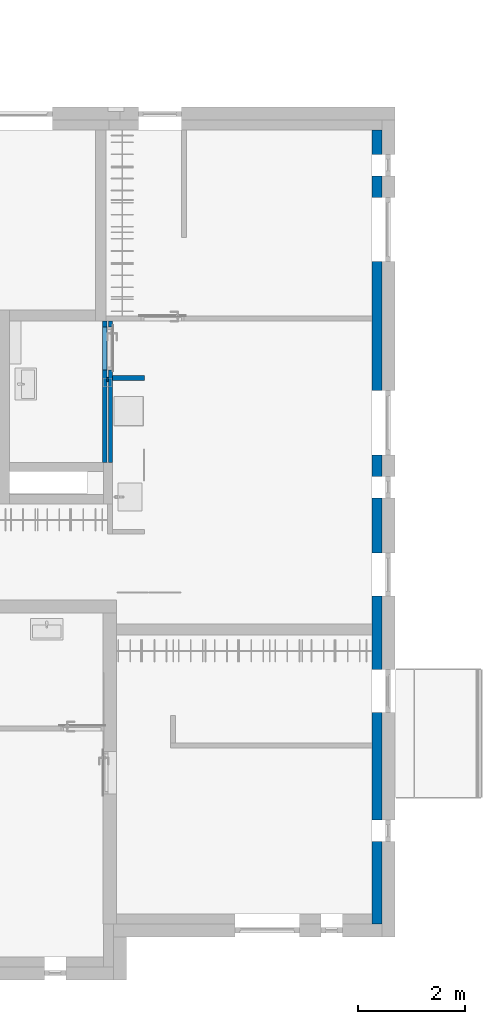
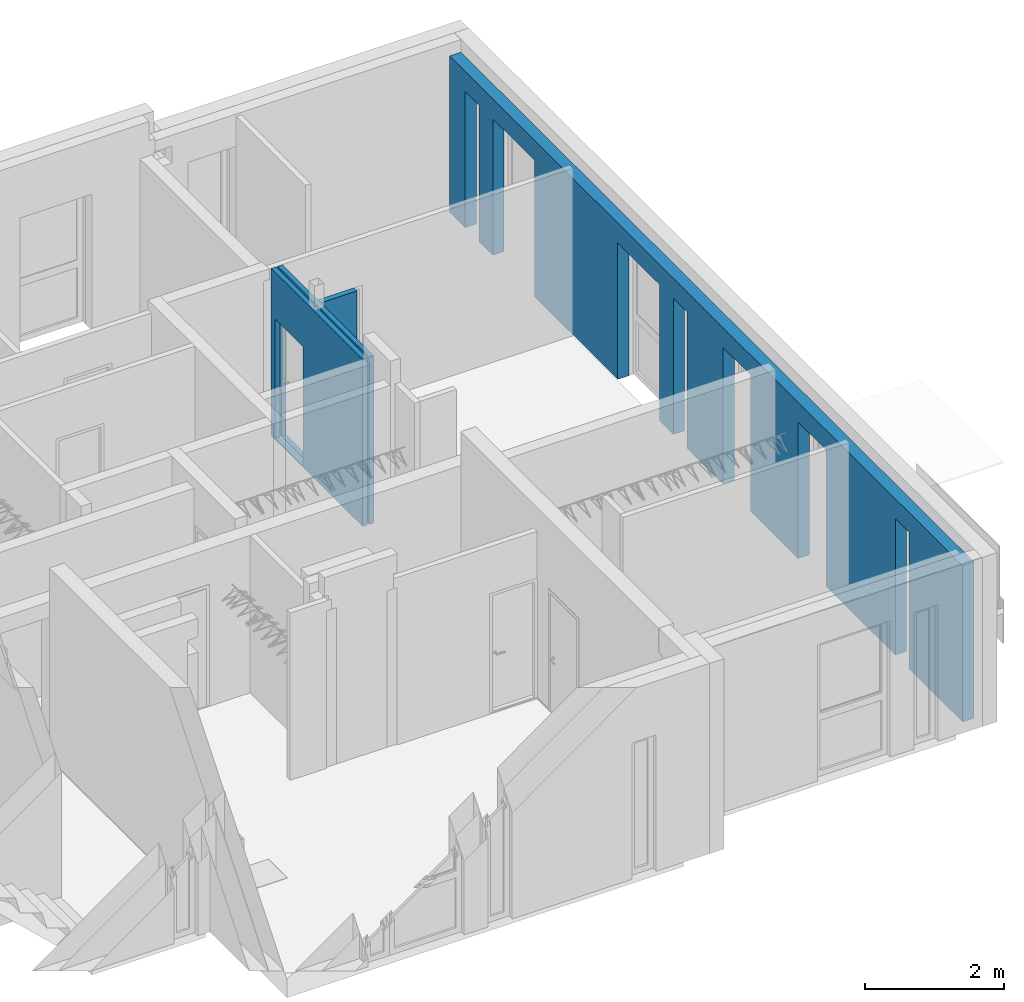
# One storey, part 5 of 42: 5 walls, 9 openings.
"""IFC2X3 building model written with IfcOpenShell, lengths in millimetres."""

from ifc_helpers import new_model, entity, si_unit, converted_unit, direction, frame, frame_2d, origin, place, context, subcontext, project, spatial, polyline, rectangle, extrude, clip, bounded_halfspace, faceted_brep, material, layer, layer_set, layer_usage, type_object, element, save


model = new_model("IFC2X3")

# Units and contexts
model_context = context("Model", 3, precision=0.01, world=origin(), true_north=direction((6.123233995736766e-17, 1.0)))
plan_context = context("Plan", 3, precision=0.01, world=origin(), true_north=direction((6.123233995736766e-17, 1.0)))
body_context = subcontext(model_context, "Body", "Model", "MODEL_VIEW")
ifc_project = project(units=[si_unit("LENGTHUNIT", "METRE", prefix="MILLI"), converted_unit("PLANEANGLEUNIT", "DEGREE", entity("IfcPlaneAngleMeasure", 0.017453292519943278), si_unit("PLANEANGLEUNIT", "RADIAN"), dimensions=[0, 0, 0, 0, 0, 0, 0]), si_unit("AREAUNIT", "SQUARE_METRE")], contexts=[model_context, plan_context])

# Site, building, storey
site_placement = place(None, origin())
site = spatial("IfcSite", under=ifc_project, at=site_placement, Name="Default", CompositionType="ELEMENT")
building_placement = place(site_placement, origin())
building = spatial("IfcBuilding", under=site, at=building_placement, CompositionType="ELEMENT")
storey_placement = place(building_placement, frame((0.0, 0.0, 9465.000076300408)))
storey = spatial("IfcBuildingStorey", under=building, at=storey_placement, Name="4K", CompositionType="ELEMENT", Elevation=9465.000076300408)

# Wall, openings
ifc_material_1 = material(Name="_K. Väisviimistlus. Krohv. Valge")
ifc_layer_1 = layer(ifc_material_1, 5.0)
ifc_material_2 = material(Name="_K. Müüritis. Väikeplokk. Betoon-õõnesplokk")
ifc_layer_2 = layer(ifc_material_2, 190.00000000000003)
ifc_layer_3 = layer(ifc_material_1, 5.0)
ifc_layer_set_1 = layer_set([ifc_layer_1, ifc_layer_2, ifc_layer_3], Name="Basic Wall:SS-01. 190")
ifc_layer_usage_1 = layer_usage(ifc_layer_set_1, "AXIS2", "NEGATIVE", 100.00000000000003)
wall_type_1 = type_object("IfcWallType", Name="Basic Wall:SS-01. 190", PredefinedType="STANDARD", material=ifc_layer_set_1)
wall_1_placement = place(storey_placement, frame((17000.0, 15400.0, 0.0), z_axis=(0.0, 0.0, 1.0), x_axis=(0.0, -1.0, 0.0)))
wall_1 = element("IfcWallStandardCase", 1, at=wall_1_placement, inside=storey, type_object=wall_type_1, material=ifc_layer_usage_1, Name="Basic Wall:SS-01. 190", ObjectType="Basic Wall:SS-01. 190", context=body_context, shape_type="Clipping", body=[
    clip(extrude(rectangle(XDim=14789.999999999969, YDim=200.00000000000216, at=frame_2d((7394.9999999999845, 1.4921397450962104e-13), x_axis=(-1.0, 0.0))), origin(), (0.0, 0.0, 1.0), 2750.00006865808), bounded_halfspace(frame((450.0, 90.0, 0.0), z_axis=(0.0, -1.0, 0.0), x_axis=(1.0, 0.0, 0.0)), True, frame((450.0, 90.0, 0.0), z_axis=(0.0, -1.0, 0.0), x_axis=(1.0, 0.0, 0.0)), polyline([(0.0, 0.0), (0.0, 2400.0), (400.0, 2400.0), (400.0, 0.0), (800.0, 0.0), (800.0, 2400.0), (2000.0, 2400.0), (2000.0, 0.0), (4400.0, 0.0), (4400.0, 2400.0), (5600.0, 2400.0), (5600.0, 0.0), (6000.0, 0.0), (6000.0, 2400.0), (6400.0, 2400.0), (6400.0, 0.0), (7430.0, 0.0), (7430.0, 2400.0), (8230.0, 2400.0), (8230.0, 0.0), (9600.0, 0.0), (9600.0, 2400.0), (10400.0, 2400.0), (10400.0, 0.0), (12400.0, 0.0), (12400.0, 2400.0), (12800.0, 2400.0), (12800.0, 0.0), (14340.0, 0.0), (14340.0, 2750.0000686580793), (-450.0, 2750.0000686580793), (-450.0, 0.0), (0.0, 0.0)]))),
])
opening_1_placement = place(wall_1_placement, frame((15400.0, -17000.0, 0.0)))
element("IfcOpeningElement", 2, at=opening_1_placement, cuts=wall_1, Name="Basic Wall:SS-01. 190", ObjectType="Opening", context=body_context, shape_type="Brep", body=[
    faceted_brep([(-14550.0, 17350.0, 2400.0), (-14550.0, 16656.0, 2400.0), (-14550.0, 16656.0, 0.0), (-14550.0, 17240.0, 0.0), (-14550.0, 17250.0, 0.0), (-14550.0, 17350.0, 0.0), (-14950.0, 17350.0, 2400.0), (-14950.0, 16656.0, 2400.0), (-14950.0, 17350.0, 0.0), (-14950.0, 17250.0, 0.0), (-14950.0, 17240.0, 0.0), (-14950.0, 16656.0, 0.0)], [[[0, 1, 2, 3, 4, 5]], [[6, 7, 1, 0]], [[8, 9, 10, 11, 7, 6]], [[5, 4, 3, 2, 11, 10, 9, 8]], [[6, 0, 5, 8]], [[7, 11, 2, 1]]]),
])
opening_2_placement = place(wall_1_placement, frame((15400.0, -17000.0, 0.0)))
element("IfcOpeningElement", 3, at=opening_2_placement, cuts=wall_1, Name="Basic Wall:SS-01. 190", ObjectType="Opening", context=body_context, shape_type="Brep", body=[
    faceted_brep([(-12950.0, 17350.0, 2400.0), (-12950.0, 16656.0, 2400.0), (-12950.0, 16656.0, 0.0), (-12950.0, 17240.0, 0.0), (-12950.0, 17250.0, 0.0), (-12950.0, 17350.0, 0.0), (-14150.0, 17350.0, 2400.0), (-14150.0, 16656.0, 2400.0), (-14150.0, 17350.0, 0.0), (-14150.0, 17250.0, 0.0), (-14150.0, 17240.0, 0.0), (-14150.0, 16656.0, 0.0)], [[[0, 1, 2, 3, 4, 5]], [[6, 7, 1, 0]], [[8, 9, 10, 11, 7, 6]], [[5, 4, 3, 2, 11, 10, 9, 8]], [[6, 0, 5, 8]], [[7, 11, 2, 1]]]),
])
opening_3_placement = place(wall_1_placement, frame((15400.0, -17000.0, 0.0)))
element("IfcOpeningElement", 4, at=opening_3_placement, cuts=wall_1, Name="Basic Wall:SS-01. 190", ObjectType="Opening", context=body_context, shape_type="Brep", body=[
    faceted_brep([(-9350.0, 17350.0, 2400.0), (-9350.0, 16656.0, 2400.0), (-9350.0, 16656.0, 0.0), (-9350.0, 17240.0, 0.0), (-9350.0, 17250.0, 0.0), (-9350.0, 17350.0, 0.0), (-10550.0, 17350.0, 2400.0), (-10550.0, 16656.0, 2400.0), (-10550.0, 17350.0, 0.0), (-10550.0, 17250.0, 0.0), (-10550.0, 17240.0, 0.0), (-10550.0, 16656.0, 0.0)], [[[0, 1, 2, 3, 4, 5]], [[6, 7, 1, 0]], [[8, 9, 10, 11, 7, 6]], [[5, 4, 3, 2, 11, 10, 9, 8]], [[6, 0, 5, 8]], [[7, 11, 2, 1]]]),
])
opening_4_placement = place(wall_1_placement, frame((15400.0, -17000.0, 0.0)))
element("IfcOpeningElement", 5, at=opening_4_placement, cuts=wall_1, Name="Basic Wall:SS-01. 190", ObjectType="Opening", context=body_context, shape_type="Brep", body=[
    faceted_brep([(-8550.0, 17350.0, 2400.0), (-8550.0, 16656.0, 2400.0), (-8550.0, 16656.0, 0.0), (-8550.0, 17240.0, 0.0), (-8550.0, 17250.0, 0.0), (-8550.0, 17350.0, 0.0), (-8950.0, 17350.0, 2400.0), (-8950.0, 16656.0, 2400.0), (-8950.0, 17350.0, 0.0), (-8950.0, 17250.0, 0.0), (-8950.0, 17240.0, 0.0), (-8950.0, 16656.0, 0.0)], [[[0, 1, 2, 3, 4, 5]], [[6, 7, 1, 0]], [[8, 9, 10, 11, 7, 6]], [[5, 4, 3, 2, 11, 10, 9, 8]], [[6, 0, 5, 8]], [[7, 11, 2, 1]]]),
])
opening_5_placement = place(wall_1_placement, frame((15400.0, -17000.0, 0.0)))
element("IfcOpeningElement", 6, at=opening_5_placement, cuts=wall_1, Name="Basic Wall:SS-01. 190", ObjectType="Opening", context=body_context, shape_type="Brep", body=[
    faceted_brep([(-6720.0, 17350.0, 2400.0), (-6720.0, 16656.0, 2400.0), (-6720.0, 16656.0, 0.0), (-6720.0, 17240.0, 0.0), (-6720.0, 17250.0, 0.0), (-6720.0, 17350.0, 0.0), (-7520.0, 17350.0, 2400.0), (-7520.0, 16656.0, 2400.0), (-7520.0, 17350.0, 0.0), (-7520.0, 17250.0, 0.0), (-7520.0, 17240.0, 0.0), (-7520.0, 16656.0, 0.0)], [[[0, 1, 2, 3, 4, 5]], [[6, 7, 1, 0]], [[8, 9, 10, 11, 7, 6]], [[5, 4, 3, 2, 11, 10, 9, 8]], [[6, 0, 5, 8]], [[7, 11, 2, 1]]]),
])
opening_6_placement = place(wall_1_placement, frame((15400.0, -17000.0, 0.0)))
element("IfcOpeningElement", 7, at=opening_6_placement, cuts=wall_1, Name="Basic Wall:SS-01. 190", ObjectType="Opening", context=body_context, shape_type="Brep", body=[
    faceted_brep([(-4550.0, 17350.0, 2400.0), (-4550.0, 16656.0, 2400.0), (-4550.0, 16656.0, 0.0), (-4550.0, 17240.0, 0.0), (-4550.0, 17250.0, 0.0), (-4550.0, 17350.0, 0.0), (-5350.0, 17350.0, 2400.0), (-5350.0, 16656.0, 2400.0), (-5350.0, 17350.0, 0.0), (-5350.0, 17250.0, 0.0), (-5350.0, 17240.0, 0.0), (-5350.0, 16656.0, 0.0)], [[[0, 1, 2, 3, 4, 5]], [[6, 7, 1, 0]], [[8, 9, 10, 11, 7, 6]], [[5, 4, 3, 2, 11, 10, 9, 8]], [[6, 0, 5, 8]], [[7, 11, 2, 1]]]),
])
opening_7_placement = place(wall_1_placement, frame((15400.0, -17000.0, 0.0)))
element("IfcOpeningElement", 8, at=opening_7_placement, cuts=wall_1, Name="Basic Wall:SS-01. 190", ObjectType="Opening", context=body_context, shape_type="Brep", body=[
    faceted_brep([(-2150.0, 17350.0, 2400.0), (-2150.0, 16656.0, 2400.0), (-2150.0, 16656.0, 0.0), (-2150.0, 17240.0, 0.0), (-2150.0, 17250.0, 0.0), (-2150.0, 17350.0, 0.0), (-2550.0, 17350.0, 2400.0), (-2550.0, 16656.0, 2400.0), (-2550.0, 17350.0, 0.0), (-2550.0, 17250.0, 0.0), (-2550.0, 17240.0, 0.0), (-2550.0, 16656.0, 0.0)], [[[0, 1, 2, 3, 4, 5]], [[6, 7, 1, 0]], [[8, 9, 10, 11, 7, 6]], [[5, 4, 3, 2, 11, 10, 9, 8]], [[6, 0, 5, 8]], [[7, 11, 2, 1]]]),
])

# Wall
ifc_material_3 = material(Name="_K. Ehitusplaat. Kipsplaat. Erikõva")
ifc_layer_4 = layer(ifc_material_3, 13.000000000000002)
ifc_material_4 = material(Name="_K. Soojustus. Mineraalvill")
ifc_layer_5 = layer(ifc_material_4, 66.0)
ifc_layer_6 = layer(ifc_material_3, 13.000000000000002)
ifc_layer_set_2 = layer_set([ifc_layer_4, ifc_layer_5, ifc_layer_6], Name="Basic Wall:SS-401")
ifc_layer_usage_2 = layer_usage(ifc_layer_set_2, "AXIS2", "NEGATIVE", 46.00000000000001)
wall_type_2 = type_object("IfcWallType", Name="Basic Wall:SS-401", PredefinedType="STANDARD", material=ifc_layer_set_2)
wall_2_placement = place(storey_placement, frame((12068.0, 10780.0, -20.0)))
element("IfcWallStandardCase", 9, at=wall_2_placement, inside=storey, type_object=wall_type_2, material=ifc_layer_usage_2, Name="Basic Wall:SS-401", ObjectType="Basic Wall:SS-401", context=body_context, shape_type="SweptSolid", body=[
    extrude(rectangle(XDim=600.0000000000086, YDim=92.00000000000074, at=frame_2d((300.0000000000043, 8.384404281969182e-13), x_axis=(-1.0, 0.0))), origin(), (0.0, 0.0, 1.0), 2945.9999999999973),
])

# Wall, opening
ifc_layer_7 = layer(ifc_material_3, 13.000000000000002)
ifc_layer_8 = layer(ifc_material_4, 66.0)
ifc_layer_set_3 = layer_set([ifc_layer_7, ifc_layer_8], Name="Basic Wall:SS-402")
ifc_layer_usage_3 = layer_usage(ifc_layer_set_3, "AXIS2", "NEGATIVE", 39.50000000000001)
wall_type_3 = type_object("IfcWallType", Name="Basic Wall:SS-402", PredefinedType="STANDARD", material=ifc_layer_set_3)
wall_3_placement = place(storey_placement, frame((11921.499999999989, 9210.0, -20.0), z_axis=(0.0, 0.0, 1.0), x_axis=(0.0, 1.0, 0.0)))
wall_3 = element("IfcWallStandardCase", 10, at=wall_3_placement, inside=storey, type_object=wall_type_3, material=ifc_layer_usage_3, Name="Basic Wall:SS-402", ObjectType="Basic Wall:SS-402", context=body_context, shape_type="SweptSolid", body=[
    extrude(rectangle(XDim=2635.9999999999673, YDim=78.99999999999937, at=frame_2d((1317.9999999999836, -3.907985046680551e-14), x_axis=(-1.0, 0.0))), origin(), (0.0, 0.0, 1.0), 2945.9999999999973),
])
opening_8_placement = place(wall_3_placement, frame((-9210.0, 11921.49999999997, 20.0)))
element("IfcOpeningElement", 11, at=opening_8_placement, cuts=wall_3, Name="Basic Wall:SS-402", ObjectType="Opening", context=body_context, shape_type="Brep", body=[
    faceted_brep([(10936.0, -10976.0, 2100.0), (11736.0, -10976.0, 2100.0), (11736.0, -10976.0, 0.0), (10936.0, -10976.0, 0.0), (10936.0, -13068.0, 0.0), (10936.0, -13068.0, 2100.0), (11736.0, -13068.0, 0.0), (11736.0, -13068.0, 2100.0)], [[[0, 1, 2, 3]], [[3, 4, 5, 0]], [[2, 6, 4, 3]], [[1, 7, 6, 2]], [[5, 7, 1, 0]], [[7, 5, 4, 6]]]),
])

# Wall
ifc_layer_usage_4 = layer_usage(ifc_layer_set_3, "AXIS2", "NEGATIVE", 39.50000000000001)
wall_4_placement = place(storey_placement, frame((11961.0, 10753.499999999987, -20.0)))
element("IfcWallStandardCase", 12, at=wall_4_placement, inside=storey, type_object=wall_type_3, material=ifc_layer_usage_4, Name="Basic Wall:SS-402", ObjectType="Basic Wall:SS-402", context=body_context, shape_type="SweptSolid", body=[
    extrude(rectangle(XDim=28.000000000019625, YDim=78.99999999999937, at=frame_2d((14.000000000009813, 7.105427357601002e-15), x_axis=(-1.0, 0.0))), origin(), (0.0, 0.0, 1.0), 2945.9999999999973),
])

# Wall, opening
ifc_layer_usage_5 = layer_usage(ifc_layer_set_3, "AXIS2", "POSITIVE", -39.50000000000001)
wall_5_placement = place(storey_placement, frame((12028.500000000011, 9210.0, -20.0), z_axis=(0.0, 0.0, 1.0), x_axis=(0.0, 1.0, 0.0)))
wall_5 = element("IfcWallStandardCase", 13, at=wall_5_placement, inside=storey, type_object=wall_type_3, material=ifc_layer_usage_5, Name="Basic Wall:SS-402", ObjectType="Basic Wall:SS-402", context=body_context, shape_type="SweptSolid", body=[
    extrude(rectangle(XDim=2635.999999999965, YDim=78.99999999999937, at=frame_2d((1317.9999999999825, 3.907985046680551e-14), x_axis=(-1.0, 0.0))), origin(), (0.0, 0.0, 1.0), 2945.9999999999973),
])
opening_9_placement = place(wall_5_placement, frame((-9210.0, 12028.500000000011, 20.0), z_axis=(0.0, 0.0, 1.0), x_axis=(0.0, -1.0, 0.0)))
element("IfcOpeningElement", 14, at=opening_9_placement, cuts=wall_5, Name="Basic Wall:SS-402", ObjectType="Opening", context=body_context, shape_type="Brep", body=[
    faceted_brep([(10976.0, 10936.0, 2100.0), (10976.0, 11736.0, 2100.0), (10976.0, 11736.0, 0.0), (10976.0, 10936.0, 0.0), (13068.0, 10936.0, 0.0), (13068.0, 10936.0, 2100.0), (13068.0, 11736.0, 0.0), (13068.0, 11736.0, 2100.0)], [[[0, 1, 2, 3]], [[3, 4, 5, 0]], [[2, 6, 4, 3]], [[1, 7, 6, 2]], [[5, 7, 1, 0]], [[7, 5, 4, 6]]]),
])

save(model, "model.ifc")
